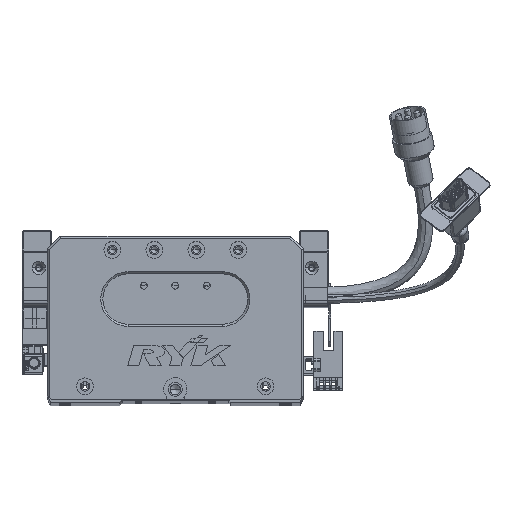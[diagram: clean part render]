
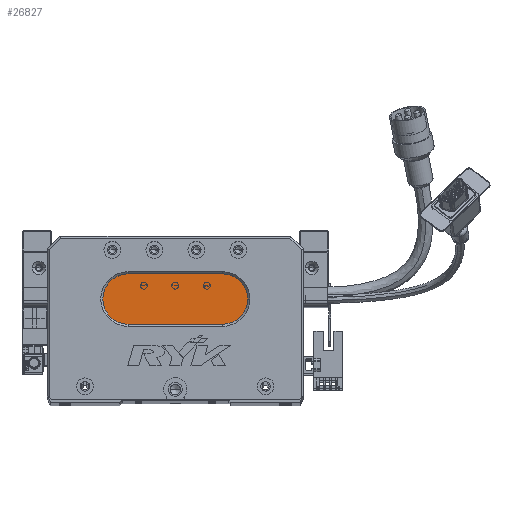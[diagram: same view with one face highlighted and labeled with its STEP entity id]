
A CAD part, top view. The second image highlights one B-rep face of the part: STEP entity #26827.
In plain terms, the highlighted planar face has unit normal (0, 0, 1) as drawn and (0, 0, -1) by its records, which use the part's own axes.
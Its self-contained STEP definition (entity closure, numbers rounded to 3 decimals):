
#3617 = ORIENTED_EDGE ( 'NONE', *, *, #6063, .T. ) ;
#6063 = EDGE_CURVE ( 'NONE', #63412, #26974, #47951, .T. ) ;
#9640 = VECTOR ( 'NONE', #70588, 1000. ) ;
#11158 = AXIS2_PLACEMENT_3D ( 'NONE', #67808, #74194, #36104 ) ;
#12805 = CARTESIAN_POINT ( 'NONE',  ( 38.5, 48., 13. ) ) ;
#13845 = FACE_OUTER_BOUND ( 'NONE', #34787, .T. ) ;
#18878 = VERTEX_POINT ( 'NONE', #79472 ) ;
#19213 = DIRECTION ( 'NONE',  ( 0., 0., -1. ) ) ;
#21111 = PLANE ( 'NONE',  #11158 ) ;
#23042 = CARTESIAN_POINT ( 'NONE',  ( 83.5, 60., 13. ) ) ;
#26827 = ADVANCED_FACE ( 'NONE', ( #13845 ), #21111, .T. ) ;
#26974 = VERTEX_POINT ( 'NONE', #74453 ) ;
#29456 = DIRECTION ( 'NONE',  ( 1., 0., 0. ) ) ;
#29605 = DIRECTION ( 'NONE',  ( 0., 0., -1. ) ) ;
#29788 = AXIS2_PLACEMENT_3D ( 'NONE', #12805, #19213, #70123 ) ;
#31108 = CIRCLE ( 'NONE', #80278, 12. ) ;
#32758 = DIRECTION ( 'NONE',  ( -1., 0., 0. ) ) ;
#33349 = CIRCLE ( 'NONE', #76386, 12. ) ;
#34787 = EDGE_LOOP ( 'NONE', ( #71024, #55833, #46023, #75540, #3617 ) ) ;
#36104 = DIRECTION ( 'NONE',  ( -1., 0., 0. ) ) ;
#46023 = ORIENTED_EDGE ( 'NONE', *, *, #57758, .T. ) ;
#47951 = LINE ( 'NONE', #23042, #67793 ) ;
#49072 = CARTESIAN_POINT ( 'NONE',  ( 38.5, 48., 13. ) ) ;
#51132 = CARTESIAN_POINT ( 'NONE',  ( 83.5, 36., 13. ) ) ;
#52413 = EDGE_CURVE ( 'NONE', #18878, #63412, #62037, .T. ) ;
#55182 = DIRECTION ( 'NONE',  ( -1., 0., 0. ) ) ;
#55833 = ORIENTED_EDGE ( 'NONE', *, *, #74690, .T. ) ;
#57758 = EDGE_CURVE ( 'NONE', #77633, #18878, #33349, .T. ) ;
#60386 = VERTEX_POINT ( 'NONE', #74973 ) ;
#62037 = CIRCLE ( 'NONE', #29788, 12. ) ;
#63412 = VERTEX_POINT ( 'NONE', #71676 ) ;
#64441 = CARTESIAN_POINT ( 'NONE',  ( 83.5, 48., 13. ) ) ;
#67793 = VECTOR ( 'NONE', #29456, 1000. ) ;
#67808 = CARTESIAN_POINT ( 'NONE',  ( 83.5, 48., 13. ) ) ;
#70123 = DIRECTION ( 'NONE',  ( -1., 0., 0. ) ) ;
#70560 = DIRECTION ( 'NONE',  ( 0., 0., -1. ) ) ;
#70588 = DIRECTION ( 'NONE',  ( -1., 0., 0. ) ) ;
#71024 = ORIENTED_EDGE ( 'NONE', *, *, #72047, .T. ) ;
#71676 = CARTESIAN_POINT ( 'NONE',  ( 38.5, 60., 13. ) ) ;
#72047 = EDGE_CURVE ( 'NONE', #26974, #60386, #31108, .T. ) ;
#73070 = CARTESIAN_POINT ( 'NONE',  ( 38.5, 36., 13. ) ) ;
#74194 = DIRECTION ( 'NONE',  ( 0., 0., -1. ) ) ;
#74453 = CARTESIAN_POINT ( 'NONE',  ( 83.5, 60., 13. ) ) ;
#74690 = EDGE_CURVE ( 'NONE', #60386, #77633, #78272, .T. ) ;
#74973 = CARTESIAN_POINT ( 'NONE',  ( 83.5, 36., 13. ) ) ;
#75540 = ORIENTED_EDGE ( 'NONE', *, *, #52413, .T. ) ;
#76386 = AXIS2_PLACEMENT_3D ( 'NONE', #49072, #29605, #55182 ) ;
#77633 = VERTEX_POINT ( 'NONE', #73070 ) ;
#78272 = LINE ( 'NONE', #51132, #9640 ) ;
#79472 = CARTESIAN_POINT ( 'NONE',  ( 26.5, 48., 13. ) ) ;
#80278 = AXIS2_PLACEMENT_3D ( 'NONE', #64441, #70560, #32758 ) ;
